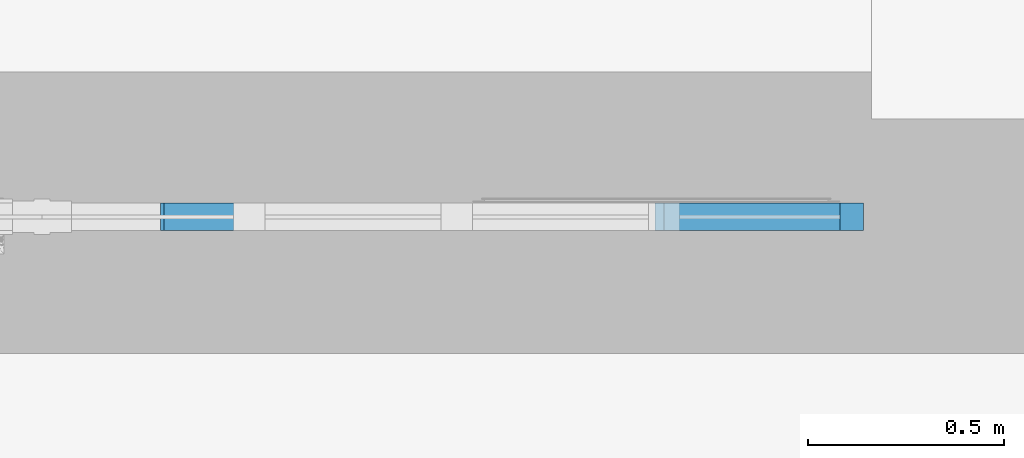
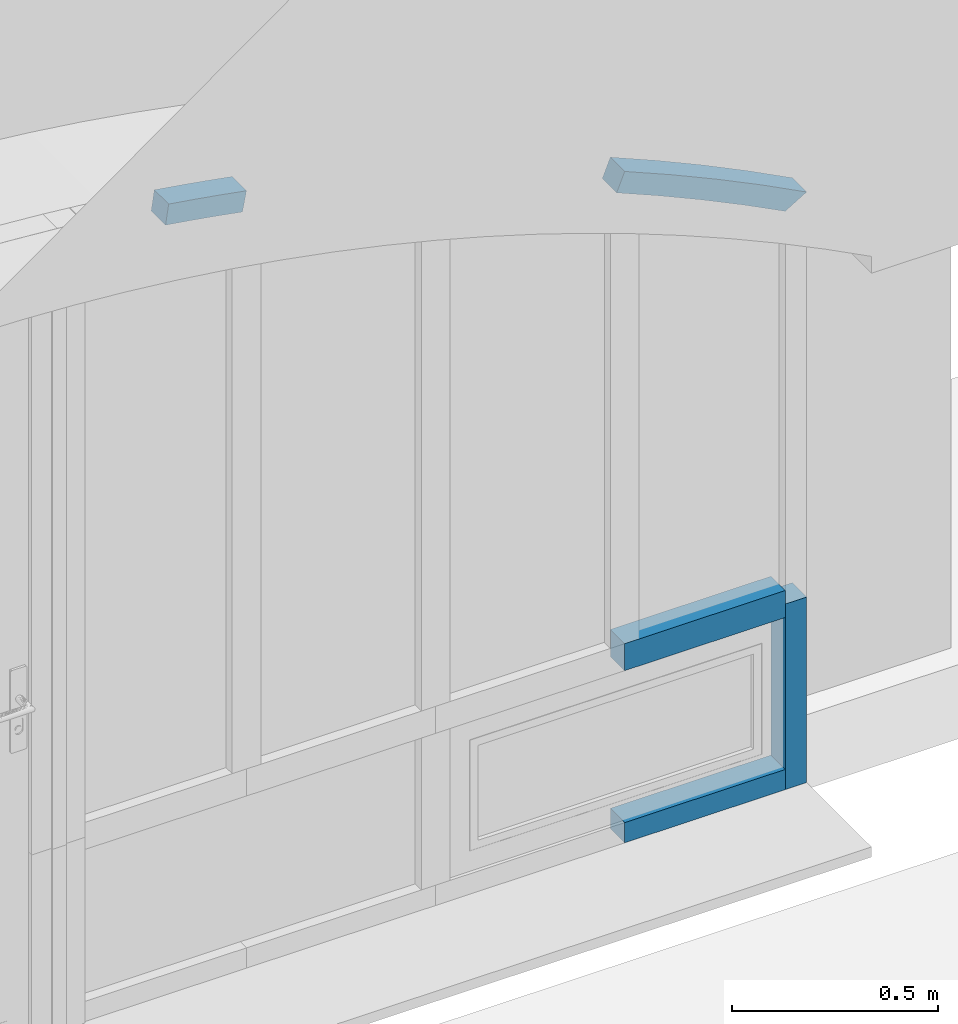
# One storey, part 49 of 88: 5 members, 1 element without a shape of its own.
"""IFC2X3 building model written with IfcOpenShell, lengths in millimetres."""

from ifc_helpers import new_model, entity, si_unit, converted_unit, derived_unit, direction, frame, frame_2d, origin, place, context, subcontext, project, spatial, polyline, circle_curve, parameter, trimmed, segment, composite_curve, rectangle, outline, extrude, source, transform, mapped, material, type_object, type_shapes, element, aggregate, save


model = new_model("IFC2X3")

# Units and contexts
model_context = context("Model", 3, precision=0.01, world=origin(), true_north=direction((6.123031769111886e-17, 1.0)))
body_context = subcontext(model_context, "Body", "Model", "MODEL_VIEW")
ifc_project = project(units=[si_unit("LENGTHUNIT", "METRE", prefix="MILLI"), si_unit("AREAUNIT", "SQUARE_METRE"), si_unit("VOLUMEUNIT", "CUBIC_METRE"), converted_unit("PLANEANGLEUNIT", "DEGREE", entity("IfcPlaneAngleMeasure", 0.017453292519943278), si_unit("PLANEANGLEUNIT", "RADIAN"), dimensions=[0, 0, 0, 0, 0, 0, 0]), si_unit("MASSUNIT", "GRAM", prefix="KILO"), derived_unit("MASSDENSITYUNIT", [(si_unit("MASSUNIT", "GRAM", prefix="KILO"), 1), (si_unit("LENGTHUNIT", "METRE"), -3)]), derived_unit("IONCONCENTRATIONUNIT", [(si_unit("MASSUNIT", "GRAM", prefix="KILO"), 1), (si_unit("LENGTHUNIT", "METRE"), -3)]), derived_unit("MOMENTOFINERTIAUNIT", [(si_unit("LENGTHUNIT", "METRE"), 4)]), si_unit("TIMEUNIT", "SECOND"), si_unit("FREQUENCYUNIT", "HERTZ"), si_unit("THERMODYNAMICTEMPERATUREUNIT", "DEGREE_CELSIUS"), derived_unit("THERMALTRANSMITTANCEUNIT", [(si_unit("MASSUNIT", "GRAM", prefix="KILO"), 1), (si_unit("THERMODYNAMICTEMPERATUREUNIT", "KELVIN"), -1), (si_unit("TIMEUNIT", "SECOND"), -3)]), derived_unit("THERMALCONDUCTANCEUNIT", [(si_unit("MASSUNIT", "GRAM", prefix="KILO"), 1), (si_unit("THERMODYNAMICTEMPERATUREUNIT", "KELVIN"), -1), (si_unit("TIMEUNIT", "SECOND"), -3), (si_unit("LENGTHUNIT", "METRE"), 1)]), derived_unit("VOLUMETRICFLOWRATEUNIT", [(si_unit("LENGTHUNIT", "METRE", prefix="DECI"), 3), (si_unit("TIMEUNIT", "SECOND"), -1)]), derived_unit("MASSFLOWRATEUNIT", [(si_unit("MASSUNIT", "GRAM", prefix="KILO"), 1), (si_unit("TIMEUNIT", "SECOND"), -1)]), derived_unit("ROTATIONALFREQUENCYUNIT", [(si_unit("TIMEUNIT", "SECOND"), -1)]), si_unit("ELECTRICCURRENTUNIT", "AMPERE"), si_unit("ELECTRICVOLTAGEUNIT", "VOLT"), si_unit("POWERUNIT", "WATT"), si_unit("FORCEUNIT", "NEWTON", prefix="KILO"), si_unit("ILLUMINANCEUNIT", "LUX"), si_unit("LUMINOUSFLUXUNIT", "LUMEN"), si_unit("LUMINOUSINTENSITYUNIT", "CANDELA"), si_unit("ENERGYUNIT", "JOULE"), derived_unit("USERDEFINED", [(si_unit("MASSUNIT", "GRAM", prefix="KILO"), -1), (si_unit("LENGTHUNIT", "METRE"), -2), (si_unit("TIMEUNIT", "SECOND"), 3), (si_unit("LUMINOUSFLUXUNIT", "LUMEN"), 1)]), derived_unit("USERDEFINED", [(si_unit("MASSUNIT", "GRAM", prefix="KILO"), 1), (si_unit("TIMEUNIT", "SECOND"), -3), (si_unit("LENGTHUNIT", "METRE"), 3), (si_unit("ELECTRICCURRENTUNIT", "AMPERE"), -2)]), derived_unit("SOUNDPOWERUNIT", [(si_unit("MASSUNIT", "GRAM", prefix="KILO"), 1), (si_unit("TIMEUNIT", "SECOND"), -3), (si_unit("LENGTHUNIT", "METRE"), 2)]), derived_unit("SOUNDPRESSUREUNIT", [(si_unit("MASSUNIT", "GRAM", prefix="KILO"), 1), (si_unit("LENGTHUNIT", "METRE"), -1), (si_unit("TIMEUNIT", "SECOND"), -2)]), derived_unit("LINEARVELOCITYUNIT", [(si_unit("LENGTHUNIT", "METRE"), 1), (si_unit("TIMEUNIT", "SECOND"), -1)]), si_unit("PRESSUREUNIT", "PASCAL"), derived_unit("USERDEFINED", [(si_unit("MASSUNIT", "GRAM", prefix="KILO"), 1), (si_unit("LENGTHUNIT", "METRE"), -2), (si_unit("TIMEUNIT", "SECOND"), -2)]), derived_unit("LINEARFORCEUNIT", [(si_unit("MASSUNIT", "GRAM", prefix="KILO"), 1), (si_unit("TIMEUNIT", "SECOND"), -2)]), derived_unit("PLANARFORCEUNIT", [(si_unit("MASSUNIT", "GRAM", prefix="KILO"), 1), (si_unit("LENGTHUNIT", "METRE"), -1), (si_unit("TIMEUNIT", "SECOND"), -2)]), derived_unit("SPECIFICHEATCAPACITYUNIT", [(si_unit("THERMODYNAMICTEMPERATUREUNIT", "KELVIN"), -1), (si_unit("LENGTHUNIT", "METRE"), 2), (si_unit("TIMEUNIT", "SECOND"), -2)]), derived_unit("HEATFLUXDENSITYUNIT", [(si_unit("MASSUNIT", "GRAM", prefix="KILO"), 1), (si_unit("TIMEUNIT", "SECOND"), -3)]), derived_unit("HEATINGVALUEUNIT", [(si_unit("LENGTHUNIT", "METRE"), 2), (si_unit("TIMEUNIT", "SECOND"), -2)]), derived_unit("VAPORPERMEABILITYUNIT", [(si_unit("LENGTHUNIT", "METRE"), -1), (si_unit("TIMEUNIT", "SECOND"), 1)]), derived_unit("DYNAMICVISCOSITYUNIT", [(si_unit("MASSUNIT", "GRAM", prefix="KILO"), 1), (si_unit("TIMEUNIT", "SECOND"), -1), (si_unit("LENGTHUNIT", "METRE"), -1)]), derived_unit("THERMALEXPANSIONCOEFFICIENTUNIT", [(si_unit("THERMODYNAMICTEMPERATUREUNIT", "KELVIN"), -1)]), derived_unit("MODULUSOFELASTICITYUNIT", [(si_unit("MASSUNIT", "GRAM", prefix="KILO"), 1), (si_unit("LENGTHUNIT", "METRE"), -1), (si_unit("TIMEUNIT", "SECOND"), -2)]), derived_unit("ISOTHERMALMOISTURECAPACITYUNIT", [(si_unit("MASSUNIT", "GRAM", prefix="KILO"), -1), (si_unit("LENGTHUNIT", "METRE"), 3)]), derived_unit("MOISTUREDIFFUSIVITYUNIT", [(si_unit("TIMEUNIT", "SECOND"), -1), (si_unit("LENGTHUNIT", "METRE"), 2)]), derived_unit("MASSPERLENGTHUNIT", [(si_unit("MASSUNIT", "GRAM", prefix="KILO"), 1), (si_unit("LENGTHUNIT", "METRE"), -1)]), derived_unit("THERMALRESISTANCEUNIT", [(si_unit("MASSUNIT", "GRAM", prefix="KILO"), -1), (si_unit("TIMEUNIT", "SECOND"), 3), (si_unit("THERMODYNAMICTEMPERATUREUNIT", "KELVIN"), 1)]), derived_unit("ACCELERATIONUNIT", [(si_unit("LENGTHUNIT", "METRE"), 1), (si_unit("TIMEUNIT", "SECOND"), -2)]), derived_unit("ANGULARVELOCITYUNIT", [(si_unit("TIMEUNIT", "SECOND"), -1), (si_unit("PLANEANGLEUNIT", "RADIAN"), 1)]), derived_unit("LINEARSTIFFNESSUNIT", [(si_unit("MASSUNIT", "GRAM", prefix="KILO"), 1), (si_unit("TIMEUNIT", "SECOND"), -2)]), derived_unit("WARPINGCONSTANTUNIT", [(si_unit("LENGTHUNIT", "METRE"), 6)]), derived_unit("LINEARMOMENTUNIT", [(si_unit("MASSUNIT", "GRAM", prefix="KILO"), 1), (si_unit("LENGTHUNIT", "METRE"), 1), (si_unit("TIMEUNIT", "SECOND"), -2)]), derived_unit("TORQUEUNIT", [(si_unit("MASSUNIT", "GRAM", prefix="KILO"), 1), (si_unit("LENGTHUNIT", "METRE"), 2), (si_unit("TIMEUNIT", "SECOND"), -2)])], contexts=[model_context])

# Site, building, storey
site_placement = place(None, origin())
site = spatial("IfcSite", under=ifc_project, at=site_placement, Name="Default", CompositionType="ELEMENT")
building_placement = place(site_placement, origin())
building = spatial("IfcBuilding", under=site, at=building_placement, Name="Eesti Rahvusraamatukogu hoone renoveerimise projekteerimistööd", CompositionType="ELEMENT")
storey_placement = place(building_placement, origin())
storey = spatial("IfcBuildingStorey", under=building, at=storey_placement, Name="1. korrus", CompositionType="ELEMENT", Elevation=0.0)

# Curtain wall, members
curtain_wall_type = type_object("IfcCurtainWallType", Name="Curtain Wall:Ak-05", PredefinedType="NOTDEFINED")
curtain_wall_placement = place(storey_placement, origin())
curtain_wall = element("IfcCurtainWall", 1, at=curtain_wall_placement, inside=storey, type_object=curtain_wall_type, Name="Curtain Wall:Ak-05", ObjectType="Curtain Wall:Ak-05")
ifc_material = material(Name="LUMION_dark steel window frames")
member_type_1 = type_object("IfcMemberType", Name="Rectangular Mullion:NEW 60x70mm", PredefinedType="MULLION", material=ifc_material)
shared_shape_1 = source(origin(), body_context, "Body", "SweptSolid", [
    extrude(outline(composite_curve([segment(trimmed(circle_curve(frame_2d((4549.812785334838, 3066.2072493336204), x_axis=(-0.8006634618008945, -0.5991143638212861)), 5523.280566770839), [parameter(354.15250498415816)], [parameter(359.99999999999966)], True, "PARAMETER"), True, "CONTINUOUS"), segment(polyline([(127.52384624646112, -242.86947363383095), (175.56365395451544, -206.92261180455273)]), True, "CONTINUOUS"), segment(trimmed(circle_curve(frame_2d((4549.812785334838, 3066.2072493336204), x_axis=(-0.8006634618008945, -0.5991143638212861)), 5463.280566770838), [parameter(354.53073311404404)], [parameter(359.99999999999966)], True, "PARAMETER"), False, "CONTINUOUS"), segment(polyline([(-116.49037438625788, 224.89604271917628), (-186.59712581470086, 224.89604271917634)]), True, "CONTINUOUS")], self_intersect=False)), frame((-43.402905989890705, -35.0, -270.85808154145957), z_axis=(0.0, -1.0, 0.0), x_axis=(-0.800663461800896, 0.0, 0.5991143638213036)), (0.0, 0.0, -1.0), 69.99999999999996),
])
type_shapes(member_type_1, [shared_shape_1])
member_1_placement = place(curtain_wall_placement, frame((-37900.0, 54340.0, 1939.304710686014), z_axis=(-0.9256428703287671, 0.0, 0.3783983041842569), x_axis=(0.3783983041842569, 0.0, 0.9256428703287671)))
member_1 = element("IfcMember", 2, at=member_1_placement, type_object=member_type_1, material=ifc_material, Name="Rectangular Mullion:NEW 60x70mm", ObjectType="Rectangular Mullion:NEW 60x70mm", context=body_context, shape_type="MappedRepresentation", body=[
    mapped(shared_shape_1, transform((0.0, 0.0, 0.0), scale=1.0)),
])
member_type_2 = type_object("IfcMemberType", Name="Rectangular Mullion:NEW 80x70mm", PredefinedType="MULLION", material=ifc_material)
shared_shape_2 = source(origin(), body_context, "Body", "SweptSolid", [
    extrude(rectangle(XDim=80.0, YDim=70.0, at=frame_2d((0.0, -3.552713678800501e-15), x_axis=(1.0, 0.0))), frame((0.0, 0.0, -450.0), z_axis=(0.0, 0.0, 1.0), x_axis=(-1.0, 0.0, 0.0)), (0.0, 0.0, 1.0), 449.9999999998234),
])
type_shapes(member_type_2, [shared_shape_2])
member_2_placement = place(curtain_wall_placement, frame((-37900.0, 54340.0, 500.0), z_axis=(-1.0, 0.0, 0.0), x_axis=(0.0, 0.0, 1.0)))
member_2 = element("IfcMember", 3, at=member_2_placement, type_object=member_type_2, material=ifc_material, Name="Rectangular Mullion:NEW 80x70mm", ObjectType="Rectangular Mullion:NEW 80x70mm", context=body_context, shape_type="MappedRepresentation", body=[
    mapped(shared_shape_2, transform((0.0, 0.0, 0.0), scale=1.0)),
])
member_type_3 = type_object("IfcMemberType", Name="Rectangular Mullion:NEW 60x70mm", PredefinedType="MULLION", material=ifc_material)
shared_shape_3 = source(origin(), body_context, "Body", "SweptSolid", [
    extrude(rectangle(XDim=60.0, YDim=70.0, at=frame_2d((0.0, 3.552713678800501e-15), x_axis=(1.0, 0.0))), frame((-30.0, 0.0, -550.0), z_axis=(0.0, 0.0, 1.0), x_axis=(-1.0, 0.0, 0.0)), (0.0, 0.0, 1.0), 550.0000000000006),
])
type_shapes(member_type_3, [shared_shape_3])
member_3_placement = place(curtain_wall_placement, frame((-37390.0, 54340.0, 500.0)))
member_3 = element("IfcMember", 4, at=member_3_placement, type_object=member_type_3, material=ifc_material, Name="Rectangular Mullion:NEW 60x70mm", ObjectType="Rectangular Mullion:NEW 60x70mm", context=body_context, shape_type="MappedRepresentation", body=[
    mapped(shared_shape_3, transform((0.0, 0.0, 0.0), scale=1.0)),
])
member_type_4 = type_object("IfcMemberType", Name="Rectangular Mullion:NEW 60x70mm", PredefinedType="MULLION", material=ifc_material)
shared_shape_4 = source(origin(), body_context, "Body", "SweptSolid", [
    extrude(rectangle(XDim=60.0, YDim=70.0, at=frame_2d((0.0, 3.552713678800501e-15), x_axis=(1.0, 0.0))), frame((-30.0, 0.0, -450.0), z_axis=(0.0, 0.0, 1.0), x_axis=(-1.0, 0.0, 0.0)), (0.0, 0.0, 1.0), 449.9999999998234),
])
type_shapes(member_type_4, [shared_shape_4])
member_4_placement = place(curtain_wall_placement, frame((-37450.0, 54340.0, -50.0), z_axis=(1.0, 0.0, 0.0), x_axis=(0.0, 0.0, -1.0)))
member_4 = element("IfcMember", 5, at=member_4_placement, type_object=member_type_4, material=ifc_material, Name="Rectangular Mullion:NEW 60x70mm", ObjectType="Rectangular Mullion:NEW 60x70mm", context=body_context, shape_type="MappedRepresentation", body=[
    mapped(shared_shape_4, transform((0.0, 0.0, 0.0), scale=1.0)),
])
member_type_5 = type_object("IfcMemberType", Name="Rectangular Mullion:NEW 60x70mm", PredefinedType="MULLION", material=ifc_material)
shared_shape_5 = source(origin(), body_context, "Body", "SweptSolid", [
    extrude(outline(composite_curve([segment(polyline([(-32.202468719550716, -109.97239538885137), (27.79753128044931, -109.97239538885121)]), True, "CONTINUOUS"), segment(trimmed(circle_curve(frame_2d((5491.078098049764, -109.97239538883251), x_axis=(-0.9991981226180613, 0.04003887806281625)), 5463.280566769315), [parameter(3.5622212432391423e-13)], [parameter(2.294672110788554)], True, "PARAMETER"), False, "CONTINUOUS"), segment(polyline([(32.17841239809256, 108.77122904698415), (-27.773474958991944, 111.17356173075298)]), True, "CONTINUOUS"), segment(trimmed(circle_curve(frame_2d((5491.078098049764, -109.97239538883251), x_axis=(-0.9991981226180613, 0.04003887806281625)), 5523.280566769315), [parameter(3.5622212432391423e-13)], [parameter(2.294672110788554)], True, "PARAMETER"), True, "CONTINUOUS")], self_intersect=False)), frame((-32.202468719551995, -35.0, -109.97239538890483), z_axis=(0.0, 1.0, 0.0), x_axis=(-0.9991981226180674, 0.0, 0.04003887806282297)), (0.0, 0.0, 1.0), 69.99999999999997),
])
type_shapes(member_type_5, [shared_shape_5])
member_5_placement = place(curtain_wall_placement, frame((-39178.09257423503, 54340.0, 2290.0), z_axis=(-0.9891368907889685, 0.0, 0.14699731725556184), x_axis=(0.14699731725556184, 0.0, 0.9891368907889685)))
member_5 = element("IfcMember", 6, at=member_5_placement, type_object=member_type_5, material=ifc_material, Name="Rectangular Mullion:NEW 60x70mm", ObjectType="Rectangular Mullion:NEW 60x70mm", context=body_context, shape_type="MappedRepresentation", body=[
    mapped(shared_shape_5, transform((0.0, 0.0, 0.0), scale=1.0)),
])
aggregate(curtain_wall, [member_1, member_2, member_3, member_4, member_5])

save(model, "model.ifc")
